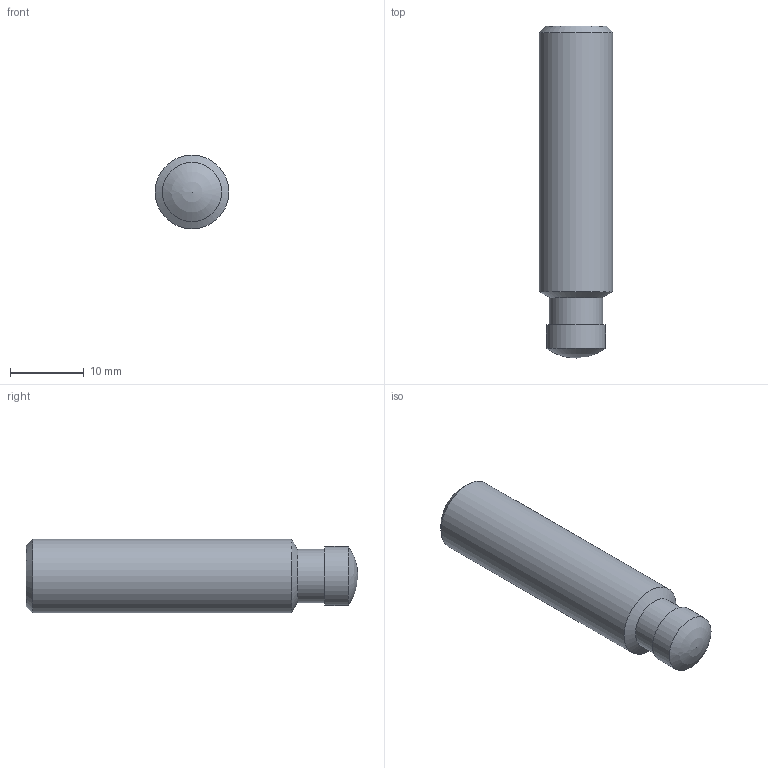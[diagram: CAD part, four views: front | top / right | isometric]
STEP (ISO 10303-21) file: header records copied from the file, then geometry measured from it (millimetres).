
FILE_DESCRIPTION( ( 'STEP AP203' ), '1' );
FILE_NAME( 'C:/Temp/Ganter_Step_05_03_2020/data/3_2/din6332/din6332/Grub screw DIN 6332-M10-45-SK.stp', '2020-03-13T05:16:20', ( 'License CC BY-ND 4.0' ), ( 'CADENAS' ), ' ', 'PARTsolutions', ' ' );
FILE_SCHEMA( ( 'CONFIG_CONTROL_DESIGN' ) );
Length unit declared in the file: millimetre
Products named in the file (1): _Grub screw DIN 6332-M10-45-SK
Bounding box: 10 x 45 x 10 mm (x, y, z)
Volume: 3142.1 mm3; surface area: 1516 mm2
Topology: 1 solids, 1 shells, 15 faces, 33 edges, 21 vertices
Faces by surface type: plane 9, cylinder 3, cone 2, sphere 1
Full cylindrical faces by diameter (mm): 7.2 x1, 8 x1, 10 x1
Entity records: 410 total; most frequent: DIRECTION 64, CARTESIAN_POINT 61, ORIENTED_EDGE 50, EDGE_CURVE 25, AXIS2_PLACEMENT_3D 23, EDGE_LOOP 22, VERTEX_POINT 20, FACE_OUTER_BOUND 18
